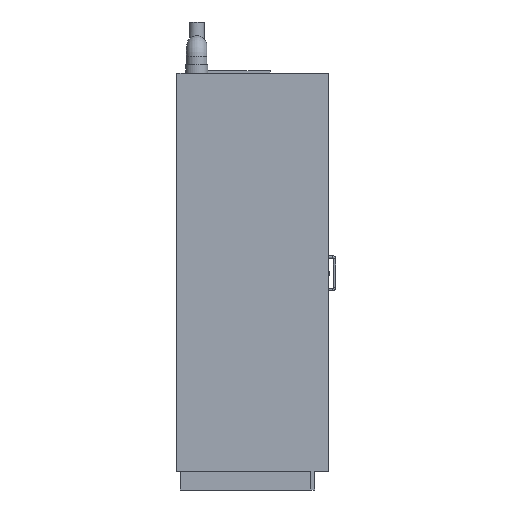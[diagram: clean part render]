
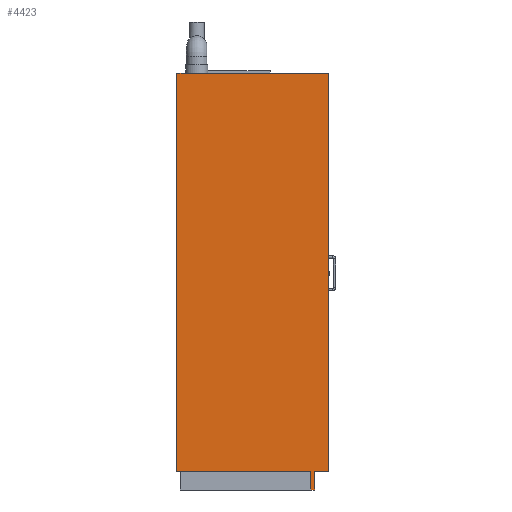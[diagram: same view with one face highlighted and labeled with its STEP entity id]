
A CAD part, left-side view. The second image highlights one B-rep face of the part: STEP entity #4423.
In plain terms, the highlighted planar face has unit normal (-1, 0, 0).
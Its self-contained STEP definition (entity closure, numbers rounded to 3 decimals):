
#133=LINE('',#5988,#450);
#137=LINE('',#5995,#454);
#138=LINE('',#5997,#455);
#163=LINE('',#6050,#480);
#168=LINE('',#6058,#485);
#172=LINE('',#6065,#489);
#295=LINE('',#6376,#612);
#307=LINE('',#6400,#624);
#308=LINE('',#6402,#625);
#309=LINE('',#6404,#626);
#310=LINE('',#6405,#627);
#311=LINE('',#6407,#628);
#450=VECTOR('',#5079,1000.);
#454=VECTOR('',#5085,1000.);
#455=VECTOR('',#5088,1000.);
#480=VECTOR('',#5125,1000.);
#485=VECTOR('',#5132,1000.);
#489=VECTOR('',#5140,1000.);
#612=VECTOR('',#5467,1000.);
#624=VECTOR('',#5491,1000.);
#625=VECTOR('',#5494,1000.);
#626=VECTOR('',#5495,1000.);
#627=VECTOR('',#5496,1000.);
#628=VECTOR('',#5497,1000.);
#771=PLANE('',#4691);
#1411=ORIENTED_EDGE('',*,*,#1784,.T.);
#1412=ORIENTED_EDGE('',*,*,#1983,.T.);
#1413=ORIENTED_EDGE('',*,*,#1984,.F.);
#1414=ORIENTED_EDGE('',*,*,#1985,.F.);
#1415=ORIENTED_EDGE('',*,*,#1814,.F.);
#1416=ORIENTED_EDGE('',*,*,#1783,.F.);
#1417=ORIENTED_EDGE('',*,*,#1779,.T.);
#1418=ORIENTED_EDGE('',*,*,#1809,.T.);
#1419=ORIENTED_EDGE('',*,*,#1818,.F.);
#1420=ORIENTED_EDGE('',*,*,#1986,.F.);
#1421=ORIENTED_EDGE('',*,*,#1987,.F.);
#1422=ORIENTED_EDGE('',*,*,#1971,.F.);
#1779=EDGE_CURVE('',#2174,#2173,#133,.T.);
#1783=EDGE_CURVE('',#2174,#2175,#137,.T.);
#1784=EDGE_CURVE('',#2176,#2177,#138,.T.);
#1809=EDGE_CURVE('',#2173,#2196,#163,.T.);
#1814=EDGE_CURVE('',#2175,#2200,#168,.T.);
#1818=EDGE_CURVE('',#2201,#2196,#172,.T.);
#1971=EDGE_CURVE('',#2176,#2286,#295,.T.);
#1983=EDGE_CURVE('',#2177,#2292,#307,.T.);
#1984=EDGE_CURVE('',#2293,#2292,#308,.T.);
#1985=EDGE_CURVE('',#2200,#2293,#309,.T.);
#1986=EDGE_CURVE('',#2294,#2201,#310,.T.);
#1987=EDGE_CURVE('',#2286,#2294,#311,.T.);
#2173=VERTEX_POINT('',#5987);
#2174=VERTEX_POINT('',#5989);
#2175=VERTEX_POINT('',#5994);
#2176=VERTEX_POINT('',#5998);
#2177=VERTEX_POINT('',#5999);
#2196=VERTEX_POINT('',#6048);
#2200=VERTEX_POINT('',#6059);
#2201=VERTEX_POINT('',#6066);
#2286=VERTEX_POINT('',#6374);
#2292=VERTEX_POINT('',#6399);
#2293=VERTEX_POINT('',#6403);
#2294=VERTEX_POINT('',#6406);
#2603=EDGE_LOOP('',(#1411,#1412,#1413,#1414,#1415,#1416,#1417,#1418,#1419,
#1420,#1421,#1422));
#2852=FACE_BOUND('',#2603,.T.);
#4423=ADVANCED_FACE('',(#2852),#771,.F.);
#4691=AXIS2_PLACEMENT_3D('',#6401,#5492,#5493);
#5079=DIRECTION('',(0.,-1.,0.));
#5085=DIRECTION('',(0.,0.,1.));
#5088=DIRECTION('',(0.,1.,0.));
#5125=DIRECTION('',(0.,0.,1.));
#5132=DIRECTION('',(0.,1.,0.));
#5140=DIRECTION('',(0.,1.,0.));
#5467=DIRECTION('',(0.,0.,1.));
#5491=DIRECTION('',(0.,0.,1.));
#5492=DIRECTION('',(1.,0.,0.));
#5493=DIRECTION('',(0.,0.,-1.));
#5494=DIRECTION('',(0.,-1.,0.));
#5495=DIRECTION('',(0.,0.,1.));
#5496=DIRECTION('',(0.,0.,-1.));
#5497=DIRECTION('',(0.,-1.,0.));
#5987=CARTESIAN_POINT('',(150.,69.,-89.));
#5988=CARTESIAN_POINT('',(150.,69.,-89.));
#5989=CARTESIAN_POINT('',(150.,88.,-89.));
#5994=CARTESIAN_POINT('',(150.,88.,0.));
#5995=CARTESIAN_POINT('',(150.,88.,-89.));
#5997=CARTESIAN_POINT('',(150.,0.,1954.5));
#5998=CARTESIAN_POINT('',(150.,699.,1954.5));
#5999=CARTESIAN_POINT('',(150.,718.,1954.5));
#6048=CARTESIAN_POINT('',(150.,69.,0.));
#6050=CARTESIAN_POINT('',(150.,69.,-89.));
#6058=CARTESIAN_POINT('',(150.,0.,0.));
#6059=CARTESIAN_POINT('',(150.,747.,0.));
#6065=CARTESIAN_POINT('',(150.,0.,0.));
#6066=CARTESIAN_POINT('',(150.,0.,0.));
#6374=CARTESIAN_POINT('',(150.,699.,1956.));
#6376=CARTESIAN_POINT('',(150.,699.,1954.5));
#6399=CARTESIAN_POINT('',(150.,718.,1956.));
#6400=CARTESIAN_POINT('',(150.,718.,1954.5));
#6401=CARTESIAN_POINT('',(150.,0.,0.));
#6402=CARTESIAN_POINT('',(150.,612.,1956.));
#6403=CARTESIAN_POINT('',(150.,747.,1956.));
#6404=CARTESIAN_POINT('',(150.,747.,0.));
#6405=CARTESIAN_POINT('',(150.,0.,1956.));
#6406=CARTESIAN_POINT('',(150.,0.,1956.));
#6407=CARTESIAN_POINT('',(150.,612.,1956.));
